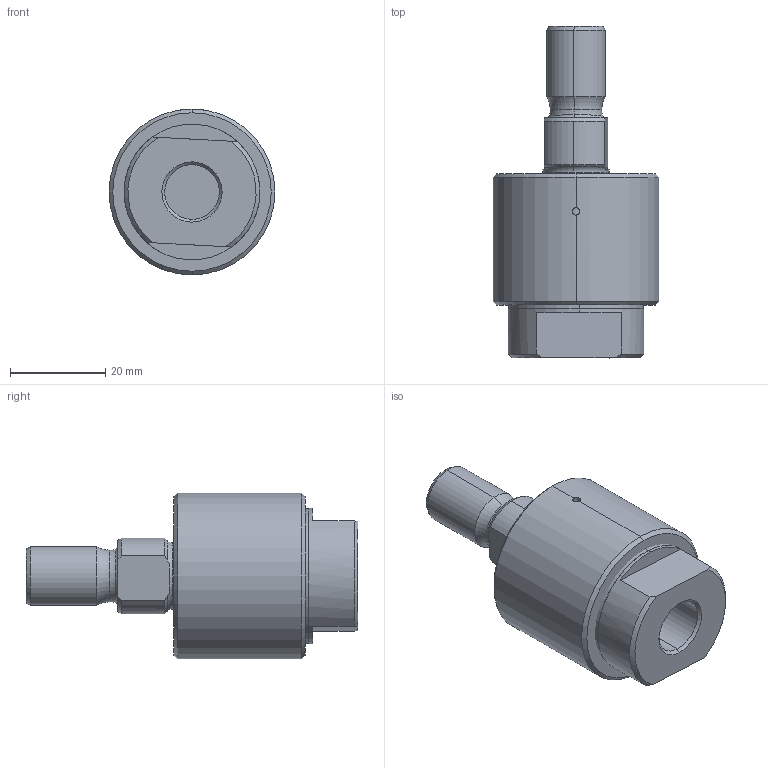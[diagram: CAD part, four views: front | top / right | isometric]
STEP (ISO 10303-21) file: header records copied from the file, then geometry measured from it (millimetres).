
FILE_DESCRIPTION (( 'STEP AP203' ), '1' );
FILE_NAME ('R020-01620.STEP', '2015-02-10T13:38:42', ( '' ), ( '' ), 'SwSTEP 2.0', 'SolidWorks 2014', '' );
FILE_SCHEMA (( 'CONFIG_CONTROL_DESIGN' ));
Length unit declared in the file: inch
Products named in the file (1): R020-01620
Bounding box: 34.92 x 69.85 x 34.92 mm (x, y, z)
Volume: 33402.6 mm3; surface area: 15443.7 mm2
Topology: 5 solids, 5 shells, 103 faces, 239 edges, 147 vertices
Faces by surface type: cylinder 33, cone 24, plane 22, torus 16, sphere 8
Entity records: 3108 total; most frequent: CARTESIAN_POINT 604, DIRECTION 567, ORIENTED_EDGE 474, AXIS2_PLACEMENT_3D 250, EDGE_CURVE 237, VERTEX_POINT 147, CIRCLE 146, EDGE_LOOP 114
